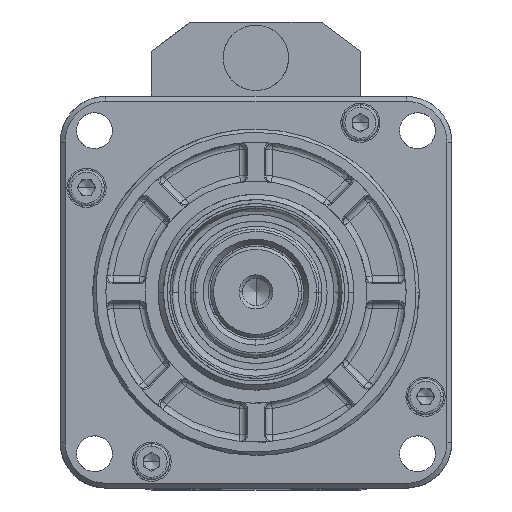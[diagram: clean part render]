
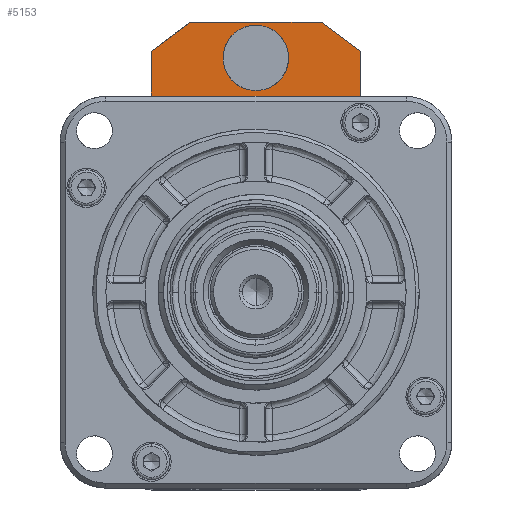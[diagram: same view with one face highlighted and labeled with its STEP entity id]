
A CAD part, top view. The second image highlights one B-rep face of the part: STEP entity #5153.
In plain terms, the highlighted free-form (B-spline) face has degree [1, 1] with [2, 2] control points.
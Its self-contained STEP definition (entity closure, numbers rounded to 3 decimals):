
#309 = ORIENTED_EDGE ( 'NONE', *, *, #34628, .F. ) ;
#488 = CARTESIAN_POINT ( 'NONE',  ( -27.216, 44.715, -167.978 ) ) ;
#2215 = ORIENTED_EDGE ( 'NONE', *, *, #16350, .T. ) ;
#2869 = CARTESIAN_POINT ( 'NONE',  ( 4.784, 51.715, -167.978 ) ) ;
#3966 = CARTESIAN_POINT ( 'NONE',  ( 4.784, 44.715, -167.978 ) ) ;
#5153 = ADVANCED_FACE ( 'NONE', ( #27840 ), #30582, .F. ) ;
#5189 = VERTEX_POINT ( 'NONE', #14057 ) ;
#7540 = CARTESIAN_POINT ( 'NONE',  ( -27.216, 51.715, -167.978 ) ) ;
#7962 = CARTESIAN_POINT ( 'NONE',  ( 4.784, 51.715, -167.978 ) ) ;
#9083 = B_SPLINE_CURVE_WITH_KNOTS ( 'NONE', 1,
 ( #7540, #13883 ),
 .UNSPECIFIED., .F., .F.,
 ( 2, 2 ),
 ( 0., 1. ),
 .UNSPECIFIED. ) ;
#11515 = CARTESIAN_POINT ( 'NONE',  ( -1.216, 56.215, -167.978 ) ) ;
#13098 = CARTESIAN_POINT ( 'NONE',  ( 4.784, 56.215, -167.978 ) ) ;
#13210 = CARTESIAN_POINT ( 'NONE',  ( -21.216, 56.215, -167.978 ) ) ;
#13388 = ORIENTED_EDGE ( 'NONE', *, *, #25689, .F. ) ;
#13883 = CARTESIAN_POINT ( 'NONE',  ( -27.216, 44.715, -167.978 ) ) ;
#14057 = CARTESIAN_POINT ( 'NONE',  ( 4.784, 44.715, -167.978 ) ) ;
#14643 = ORIENTED_EDGE ( 'NONE', *, *, #34919, .F. ) ;
#16350 = EDGE_CURVE ( 'NONE', #38933, #20625, #9083, .T. ) ;
#17514 = VERTEX_POINT ( 'NONE', #11515 ) ;
#17846 = CARTESIAN_POINT ( 'NONE',  ( -27.216, 51.715, -167.978 ) ) ;
#19477 = CARTESIAN_POINT ( 'NONE',  ( 4.784, 44.715, -167.978 ) ) ;
#19788 = B_SPLINE_CURVE_WITH_KNOTS ( 'NONE', 1,
 ( #28652, #29752 ),
 .UNSPECIFIED., .F., .F.,
 ( 2, 2 ),
 ( 0., 1. ),
 .UNSPECIFIED. ) ;
#20625 = VERTEX_POINT ( 'NONE', #24071 ) ;
#21836 = CARTESIAN_POINT ( 'NONE',  ( 4.784, 44.715, -167.978 ) ) ;
#21974 = EDGE_CURVE ( 'NONE', #38933, #32012, #19788, .T. ) ;
#22468 = ORIENTED_EDGE ( 'NONE', *, *, #21974, .F. ) ;
#24071 = CARTESIAN_POINT ( 'NONE',  ( -27.216, 44.715, -167.978 ) ) ;
#25135 = B_SPLINE_CURVE_WITH_KNOTS ( 'NONE', 1,
 ( #3966, #29331 ),
 .UNSPECIFIED., .F., .F.,
 ( 2, 2 ),
 ( 0., 1. ),
 .UNSPECIFIED. ) ;
#25689 = EDGE_CURVE ( 'NONE', #5189, #20625, #25135, .T. ) ;
#26550 = CARTESIAN_POINT ( 'NONE',  ( -1.216, 56.215, -167.978 ) ) ;
#26685 = B_SPLINE_CURVE_WITH_KNOTS ( 'NONE', 1,
 ( #2869, #21836 ),
 .UNSPECIFIED., .F., .F.,
 ( 2, 2 ),
 ( 0., 1. ),
 .UNSPECIFIED. ) ;
#27840 = FACE_OUTER_BOUND ( 'NONE', #28865, .T. ) ;
#28256 = B_SPLINE_CURVE_WITH_KNOTS ( 'NONE', 1,
 ( #13210, #32220 ),
 .UNSPECIFIED., .F., .F.,
 ( 2, 2 ),
 ( 0., 1. ),
 .UNSPECIFIED. ) ;
#28652 = CARTESIAN_POINT ( 'NONE',  ( -27.216, 51.715, -167.978 ) ) ;
#28865 = EDGE_LOOP ( 'NONE', ( #14643, #22468, #2215, #13388, #38316, #309 ) ) ;
#29331 = CARTESIAN_POINT ( 'NONE',  ( -27.216, 44.715, -167.978 ) ) ;
#29752 = CARTESIAN_POINT ( 'NONE',  ( -21.216, 56.215, -167.978 ) ) ;
#30582 = B_SPLINE_SURFACE_WITH_KNOTS ( 'NONE', 1, 1, ( 
 ( #13098, #32108 ),
 ( #19477, #488 ) ),
 .UNSPECIFIED., .F., .F., .F.,
 ( 2, 2 ),
 ( 2, 2 ),
 ( 0., 1. ),
 ( 0., 1. ),
 .UNSPECIFIED. ) ;
#32012 = VERTEX_POINT ( 'NONE', #37394 ) ;
#32108 = CARTESIAN_POINT ( 'NONE',  ( -27.216, 56.215, -167.978 ) ) ;
#32220 = CARTESIAN_POINT ( 'NONE',  ( -1.216, 56.215, -167.978 ) ) ;
#32941 = CARTESIAN_POINT ( 'NONE',  ( 4.784, 51.715, -167.978 ) ) ;
#34628 = EDGE_CURVE ( 'NONE', #17514, #39253, #37579, .T. ) ;
#34919 = EDGE_CURVE ( 'NONE', #32012, #17514, #28256, .T. ) ;
#36850 = EDGE_CURVE ( 'NONE', #39253, #5189, #26685, .T. ) ;
#37394 = CARTESIAN_POINT ( 'NONE',  ( -21.216, 56.215, -167.978 ) ) ;
#37579 = B_SPLINE_CURVE_WITH_KNOTS ( 'NONE', 1,
 ( #26550, #32941 ),
 .UNSPECIFIED., .F., .F.,
 ( 2, 2 ),
 ( 0., 1. ),
 .UNSPECIFIED. ) ;
#38316 = ORIENTED_EDGE ( 'NONE', *, *, #36850, .F. ) ;
#38933 = VERTEX_POINT ( 'NONE', #17846 ) ;
#39253 = VERTEX_POINT ( 'NONE', #7962 ) ;
